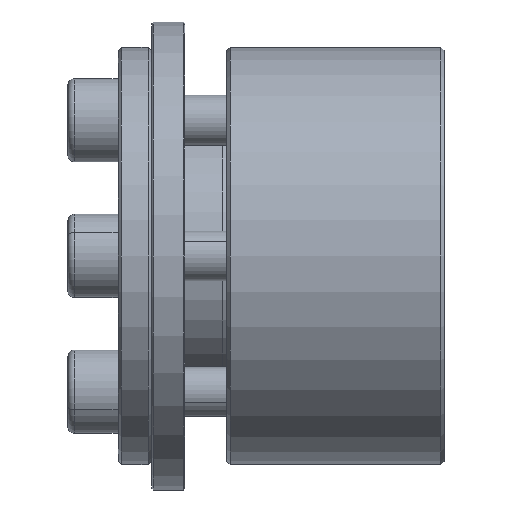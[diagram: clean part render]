
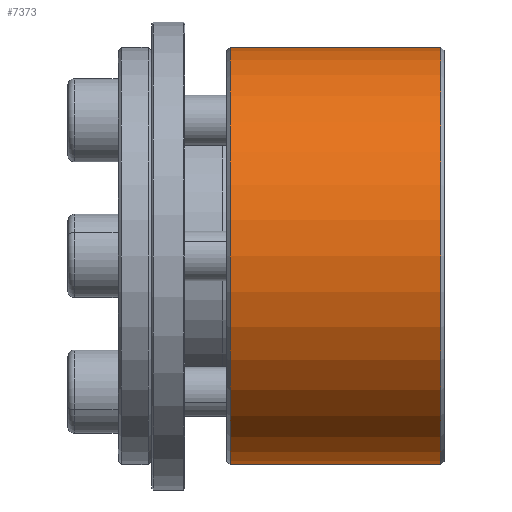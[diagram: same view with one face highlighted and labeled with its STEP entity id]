
A CAD part, front view. The second image highlights one B-rep face of the part: STEP entity #7373.
In plain terms, the highlighted cylindrical face has radius 24.96 mm (diameter 49.92 mm), a partial arc.
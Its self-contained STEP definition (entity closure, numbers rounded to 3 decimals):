
#171 = CIRCLE ( 'NONE', #3947, 24.96 ) ;
#383 = DIRECTION ( 'NONE',  ( -1., 0., 0. ) ) ;
#428 = CARTESIAN_POINT ( 'NONE',  ( -67.166, 26.04, 24.96 ) ) ;
#513 = DIRECTION ( 'NONE',  ( -1., 0., 0. ) ) ;
#564 = VERTEX_POINT ( 'NONE', #4025 ) ;
#1101 = LINE ( 'NONE', #1675, #6654 ) ;
#1207 = EDGE_CURVE ( 'NONE', #3880, #2373, #1954, .T. ) ;
#1473 = FACE_OUTER_BOUND ( 'NONE', #2747, .T. ) ;
#1564 = DIRECTION ( 'NONE',  ( 0., 0., -1. ) ) ;
#1649 = DIRECTION ( 'NONE',  ( 1., 0., 0. ) ) ;
#1675 = CARTESIAN_POINT ( 'NONE',  ( -92.766, 26.04, 24.96 ) ) ;
#1894 = CYLINDRICAL_SURFACE ( 'NONE', #5704, 24.96 ) ;
#1927 = DIRECTION ( 'NONE',  ( 0., 0., 1. ) ) ;
#1954 = CIRCLE ( 'NONE', #4505, 24.96 ) ;
#1962 = DIRECTION ( 'NONE',  ( 0., 0., 1. ) ) ;
#2092 = EDGE_CURVE ( 'NONE', #3880, #564, #4367, .T. ) ;
#2373 = VERTEX_POINT ( 'NONE', #428 ) ;
#2747 = EDGE_LOOP ( 'NONE', ( #3041, #4766, #5936, #5538 ) ) ;
#3041 = ORIENTED_EDGE ( 'NONE', *, *, #2092, .F. ) ;
#3880 = VERTEX_POINT ( 'NONE', #6634 ) ;
#3947 = AXIS2_PLACEMENT_3D ( 'NONE', #5176, #1649, #1564 ) ;
#4025 = CARTESIAN_POINT ( 'NONE',  ( -92.366, 26.04, -24.96 ) ) ;
#4367 = LINE ( 'NONE', #5720, #4591 ) ;
#4505 = AXIS2_PLACEMENT_3D ( 'NONE', #4831, #7113, #1927 ) ;
#4591 = VECTOR ( 'NONE', #513, 1000. ) ;
#4766 = ORIENTED_EDGE ( 'NONE', *, *, #1207, .T. ) ;
#4831 = CARTESIAN_POINT ( 'NONE',  ( -67.166, 26.04, 0. ) ) ;
#4903 = DIRECTION ( 'NONE',  ( -1., 0., 0. ) ) ;
#5176 = CARTESIAN_POINT ( 'NONE',  ( -92.366, 26.04, 0. ) ) ;
#5440 = EDGE_CURVE ( 'NONE', #6345, #564, #171, .T. ) ;
#5538 = ORIENTED_EDGE ( 'NONE', *, *, #5440, .T. ) ;
#5704 = AXIS2_PLACEMENT_3D ( 'NONE', #6664, #4903, #1962 ) ;
#5720 = CARTESIAN_POINT ( 'NONE',  ( -92.766, 26.04, -24.96 ) ) ;
#5936 = ORIENTED_EDGE ( 'NONE', *, *, #7170, .T. ) ;
#6143 = CARTESIAN_POINT ( 'NONE',  ( -92.366, 26.04, 24.96 ) ) ;
#6345 = VERTEX_POINT ( 'NONE', #6143 ) ;
#6634 = CARTESIAN_POINT ( 'NONE',  ( -67.166, 26.04, -24.96 ) ) ;
#6654 = VECTOR ( 'NONE', #383, 1000. ) ;
#6664 = CARTESIAN_POINT ( 'NONE',  ( -92.766, 26.04, 0. ) ) ;
#7113 = DIRECTION ( 'NONE',  ( -1., 0., 0. ) ) ;
#7170 = EDGE_CURVE ( 'NONE', #2373, #6345, #1101, .T. ) ;
#7373 = ADVANCED_FACE ( 'NONE', ( #1473 ), #1894, .T. ) ;
